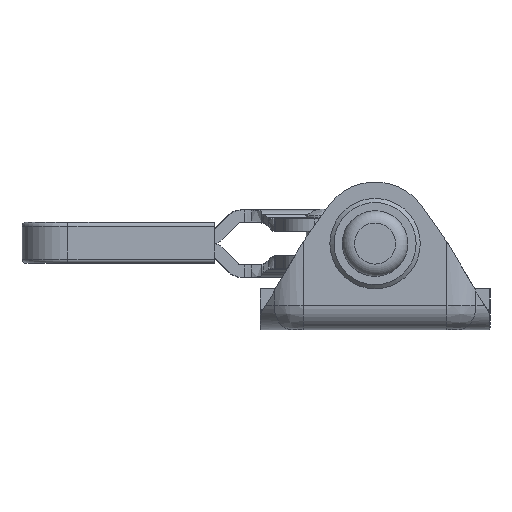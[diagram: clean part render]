
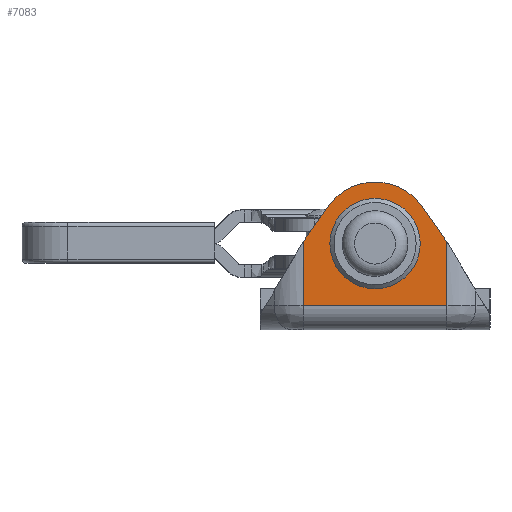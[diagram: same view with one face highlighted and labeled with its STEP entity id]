
A CAD part, left-side view. The second image highlights one B-rep face of the part: STEP entity #7083.
In plain terms, the highlighted planar face has unit normal (-1, 0, 0).
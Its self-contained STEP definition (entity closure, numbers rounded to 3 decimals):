
#232=FACE_BOUND('',#1139,.T.);
#310=PLANE('',#7902);
#718=FACE_OUTER_BOUND('',#1138,.T.);
#1138=EDGE_LOOP('',(#5561,#5562,#5563,#5564,#5565,#5566));
#1139=EDGE_LOOP('',(#5567,#5568));
#1563=CIRCLE('',#7804,5.5);
#1564=CIRCLE('',#7805,5.5);
#1592=CIRCLE('',#7844,7.);
#2090=LINE('',#17564,#2628);
#2091=LINE('',#17567,#2629);
#2125=LINE('',#17682,#2663);
#2134=LINE('',#17710,#2672);
#2137=LINE('',#17723,#2675);
#2628=VECTOR('',#8969,1000.);
#2629=VECTOR('',#8972,1000.);
#2663=VECTOR('',#9070,1000.);
#2672=VECTOR('',#9099,1000.);
#2675=VECTOR('',#9122,1000.);
#3179=VERTEX_POINT('',#16622);
#3180=VERTEX_POINT('',#16624);
#3211=VERTEX_POINT('',#16707);
#3212=VERTEX_POINT('',#16709);
#3304=VERTEX_POINT('',#17562);
#3305=VERTEX_POINT('',#17566);
#3342=VERTEX_POINT('',#17681);
#3351=VERTEX_POINT('',#17708);
#3975=EDGE_CURVE('',#3180,#3179,#1563,.T.);
#3976=EDGE_CURVE('',#3179,#3180,#1564,.T.);
#4017=EDGE_CURVE('',#3211,#3212,#1592,.T.);
#4114=EDGE_CURVE('',#3304,#3211,#2090,.T.);
#4115=EDGE_CURVE('',#3212,#3305,#2091,.T.);
#4167=EDGE_CURVE('',#3305,#3342,#2125,.T.);
#4182=EDGE_CURVE('',#3351,#3304,#2134,.T.);
#4189=EDGE_CURVE('',#3342,#3351,#2137,.T.);
#5561=ORIENTED_EDGE('',*,*,#4182,.F.);
#5562=ORIENTED_EDGE('',*,*,#4189,.F.);
#5563=ORIENTED_EDGE('',*,*,#4167,.F.);
#5564=ORIENTED_EDGE('',*,*,#4115,.F.);
#5565=ORIENTED_EDGE('',*,*,#4017,.F.);
#5566=ORIENTED_EDGE('',*,*,#4114,.F.);
#5567=ORIENTED_EDGE('',*,*,#3975,.T.);
#5568=ORIENTED_EDGE('',*,*,#3976,.T.);
#7083=ADVANCED_FACE('',(#718,#232),#310,.F.);
#7804=AXIS2_PLACEMENT_3D('',#16625,#8810,#8811);
#7805=AXIS2_PLACEMENT_3D('',#16626,#8812,#8813);
#7844=AXIS2_PLACEMENT_3D('',#16710,#8903,#8904);
#7902=AXIS2_PLACEMENT_3D('',#17722,#9120,#9121);
#8810=DIRECTION('center_axis',(1.,0.,0.));
#8811=DIRECTION('ref_axis',(0.,0.,-1.));
#8812=DIRECTION('center_axis',(1.,0.,0.));
#8813=DIRECTION('ref_axis',(0.,0.,-1.));
#8903=DIRECTION('center_axis',(1.,0.,0.));
#8904=DIRECTION('ref_axis',(0.,0.,1.));
#8969=DIRECTION('',(0.,-0.574,0.819));
#8972=DIRECTION('',(0.,-0.574,-0.819));
#9070=DIRECTION('',(0.,0.,-1.));
#9099=DIRECTION('',(0.,0.,1.));
#9120=DIRECTION('center_axis',(1.,0.,0.));
#9121=DIRECTION('ref_axis',(0.,0.,-1.));
#9122=DIRECTION('',(0.,1.,0.));
#16622=CARTESIAN_POINT('',(-16.25,0.,5.));
#16624=CARTESIAN_POINT('',(-16.25,0.,16.));
#16625=CARTESIAN_POINT('Origin',(-16.25,0.,10.5));
#16626=CARTESIAN_POINT('Origin',(-16.25,0.,10.5));
#16707=CARTESIAN_POINT('',(-16.25,5.557,15.256));
#16709=CARTESIAN_POINT('',(-16.25,-5.557,15.256));
#16710=CARTESIAN_POINT('Origin',(-16.25,0.,11.));
#17562=CARTESIAN_POINT('',(-16.25,8.757,10.686));
#17564=CARTESIAN_POINT('',(-16.25,8.757,10.686));
#17566=CARTESIAN_POINT('',(-16.25,-8.757,10.686));
#17567=CARTESIAN_POINT('',(-16.25,-5.557,15.256));
#17681=CARTESIAN_POINT('',(-16.25,-8.757,3.));
#17682=CARTESIAN_POINT('',(-16.25,-8.757,2.));
#17708=CARTESIAN_POINT('',(-16.25,8.757,3.));
#17710=CARTESIAN_POINT('',(-16.25,8.757,2.));
#17722=CARTESIAN_POINT('Origin',(-16.25,8.757,2.));
#17723=CARTESIAN_POINT('',(-16.25,8.757,3.));
